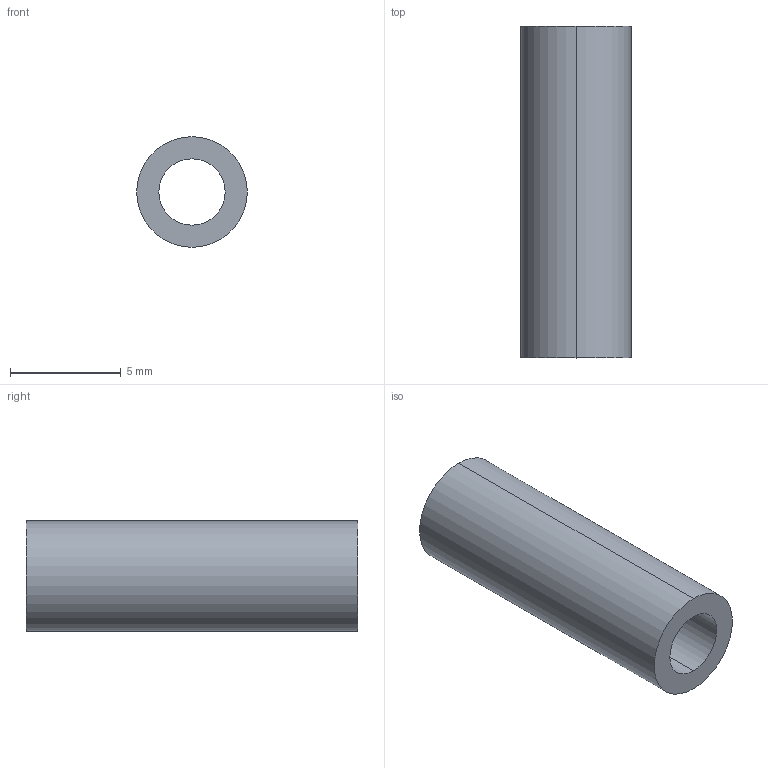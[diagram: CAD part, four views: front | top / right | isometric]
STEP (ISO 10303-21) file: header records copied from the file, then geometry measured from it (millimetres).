
FILE_DESCRIPTION (( 'STEP AP214' ), '1' );
FILE_NAME ('PCB screw stand15mm.STEP', '2025-05-05T23:08:58', ( '' ), ( '' ), 'SwSTEP 2.0', 'SolidWorks 2024', '' );
FILE_SCHEMA (( 'AUTOMOTIVE_DESIGN' ));
Length unit declared in the file: millimetre
Products named in the file (1): PCB screw stand15mm
Bounding box: 5 x 15 x 5 mm (x, y, z)
Volume: 188.5 mm3; surface area: 402.1 mm2
Topology: 1 solids, 1 shells, 6 faces, 12 edges, 8 vertices
Faces by surface type: cylinder 4, plane 2
Entity records: 191 total; most frequent: DIRECTION 34, CARTESIAN_POINT 27, ORIENTED_EDGE 24, AXIS2_PLACEMENT_3D 15, EDGE_CURVE 12, VERTEX_POINT 8, EDGE_LOOP 8, CIRCLE 8
